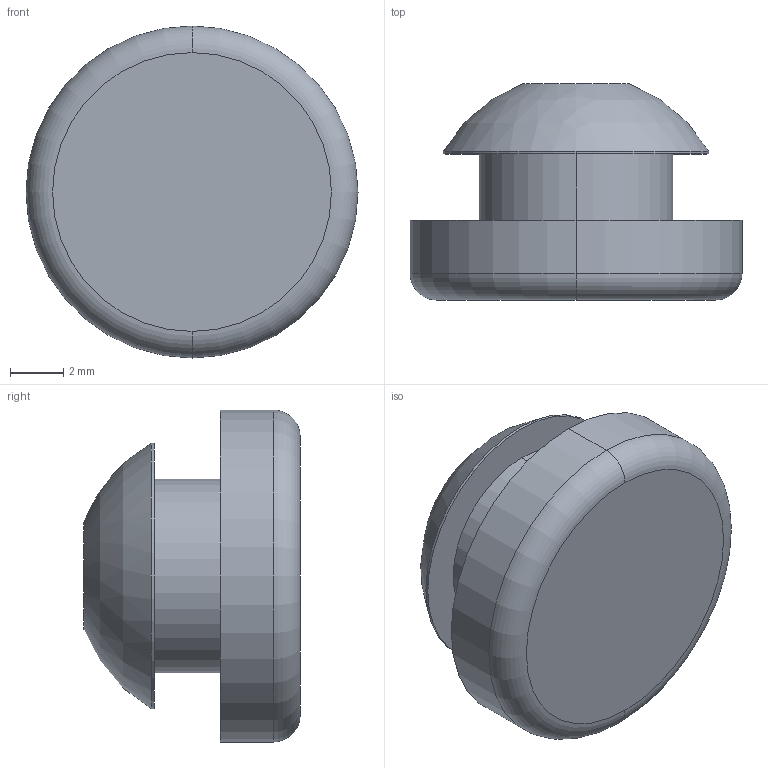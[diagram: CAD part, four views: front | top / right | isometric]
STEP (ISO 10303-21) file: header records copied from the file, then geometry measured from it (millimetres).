
FILE_DESCRIPTION (( 'STEP AP203' ), '1' );
FILE_NAME ('A-95.STEP', '2025-10-27T06:10:48', ( '' ), ( '' ), 'SwSTEP 2.0', 'SolidWorks 2021', '' );
FILE_SCHEMA (( 'CONFIG_CONTROL_DESIGN' ));
Length unit declared in the file: millimetre
Products named in the file (1): A-95
Bounding box: 12.5 x 8.14 x 12.5 mm (x, y, z)
Volume: 533.5 mm3; surface area: 569.2 mm2
Topology: 1 solids, 1 shells, 15 faces, 29 edges, 18 vertices
Faces by surface type: cylinder 8, plane 4, torus 2, sphere 1
Entity records: 463 total; most frequent: DIRECTION 80, CARTESIAN_POINT 62, ORIENTED_EDGE 56, AXIS2_PLACEMENT_3D 36, EDGE_CURVE 28, CIRCLE 20, EDGE_LOOP 18, VERTEX_POINT 18
